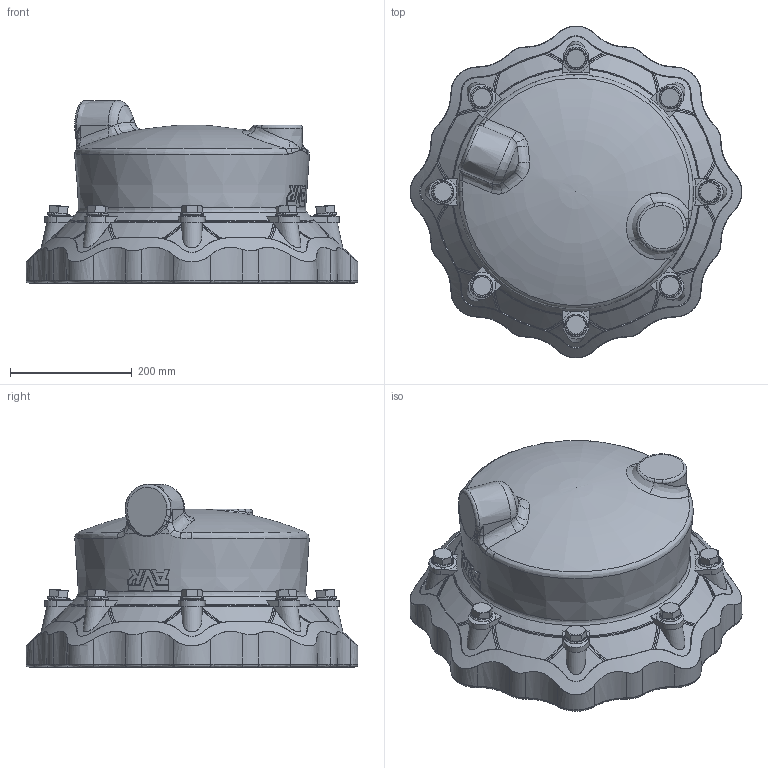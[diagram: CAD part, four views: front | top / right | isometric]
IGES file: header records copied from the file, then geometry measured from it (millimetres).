
Start section: SolidWorks IGES file using analytic representation for surfaces
Global section: file name: \\avksan2\techshare\PBM outline export from Enovia\O_634_00_DN300_314-356mm_AA0_igs.igs; native system: SolidWorks 2012; preprocessor: SolidWorks 2012; author: pbm; date: 160510.124611; units: millimetre
Bounding box: 544.47 x 544.47 x 300.51 mm (x, y, z)
Surface area: 969081 mm2 (no closed solid volume)
Topology: 0 solids, 0 shells, 804 faces, 5717 edges, 5690 vertices
Faces by surface type: bspline 512, revolution 292
